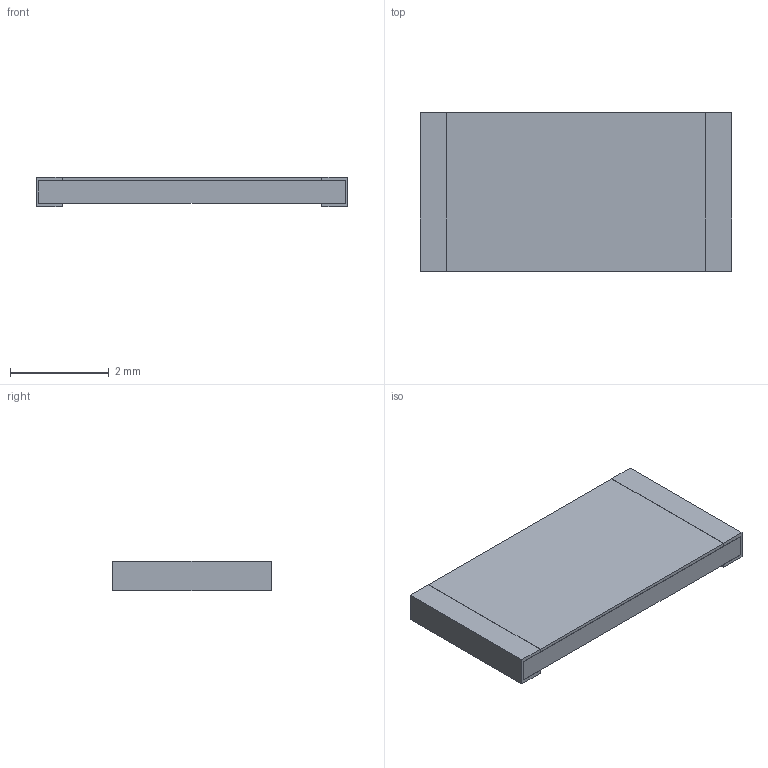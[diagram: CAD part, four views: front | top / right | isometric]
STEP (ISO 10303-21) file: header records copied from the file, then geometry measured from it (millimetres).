
FILE_DESCRIPTION(('STEP AP203'), '1');
FILE_NAME('Ð1-8 2512 ', '', ('UNSPECIFIED'), ('UNSPECIFIED'), 'ASCON STEP Converter 1.6', 'ASCON Math Kernel', '');
FILE_SCHEMA(('CONFIG_CONTROL_DESIGN'));
Length unit declared in the file: millimetre
Bounding box: 6.3 x 3.2 x 0.6 mm (x, y, z)
Volume: 10.8 mm3; surface area: 104.1 mm2
Topology: 4 solids, 5 shells, 51 faces, 123 edges, 82 vertices
Faces by surface type: plane 47, cylinder 4
Entity records: 1937 total; most frequent: CARTESIAN_POINT 257, ORIENTED_EDGE 246, DIRECTION 235, EDGE_CURVE 123, LINE 115, VECTOR 115, VERTEX_POINT 82, AXIS2_PLACEMENT_3D 60
